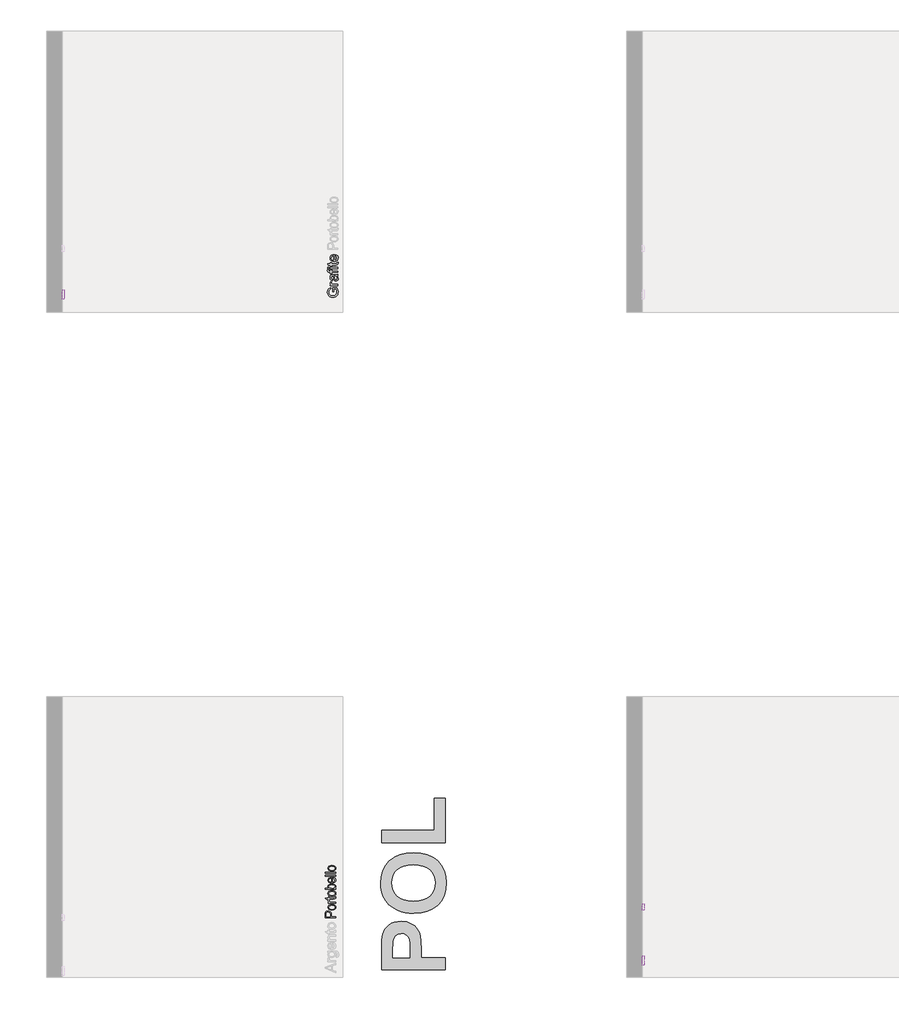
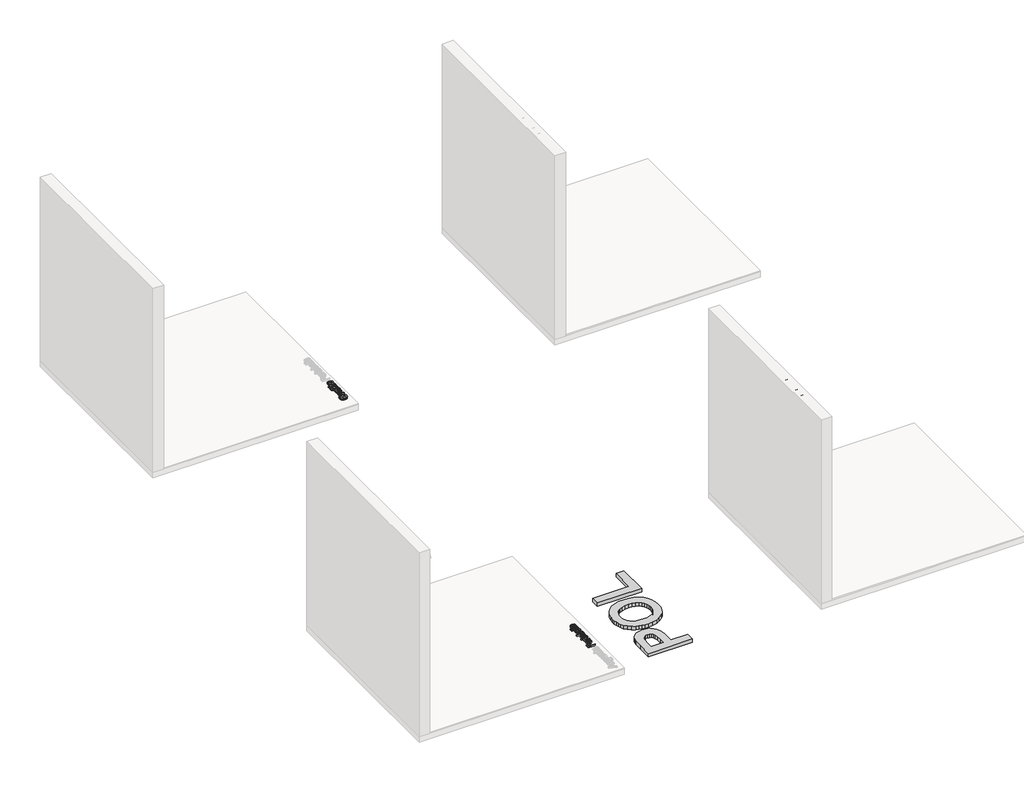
# One storey, part 2 of 14: 6 proxies.
"""IFC4 building model written with IfcOpenShell, lengths in millimetres."""

import ifcopenshell
import ifcopenshell.guid

model = None  # the IFC model being written
_history = None  # IfcOwnerHistory: only IFC2X3 demands one
_inside = {}  # id of a spatial element -> (the spatial element, [elements in it])
_under = {}  # id of a project, library or spatial element -> (it, [spatial elements below it])
_declared = {}  # id of a project -> (the project, [libraries it declares])
_typed = {}  # id of a type object -> (the type object, [elements of that type])
_made_of = {}  # id of a material, layer set ... -> (it, [elements and type objects made of it])


def new_model(schema):
    """Start an empty IFC model of exactly this schema.

    Asked for "IFC4X3", IfcOpenShell would pick the latest addendum, in which some entities
    have other attributes; the version numbers below select the first issue.
    IFC2X3 requires an IfcOwnerHistory on every rooted entity: one is made here for all.
    """
    global model, _history
    if schema == "IFC4X3":
        model = ifcopenshell.file(schema_version=(4, 3, 0, 0))
    else:
        model = ifcopenshell.file(schema=schema)
    _inside.clear()
    _under.clear()
    _declared.clear()
    _typed.clear()
    _made_of.clear()
    _history = None
    if model.schema == "IFC2X3":
        org = make("IfcOrganization", Name="unknown")
        user = make(
            "IfcPersonAndOrganization",
            ThePerson=make("IfcPerson", FamilyName="unknown"),
            TheOrganization=org,
        )
        app = make(
            "IfcApplication",
            ApplicationDeveloper=org,
            Version="unknown",
            ApplicationFullName="unknown",
            ApplicationIdentifier="unknown",
        )
        _history = make(
            "IfcOwnerHistory",
            OwningUser=user,
            OwningApplication=app,
            ChangeAction="ADDED",
            CreationDate=0,
        )
    return model


def make(cls, **values):
    """One entity of the class cls with the attributes given. An attribute that is None is left unset."""
    return model.create_entity(
        cls, **{name: value for name, value in values.items() if value is not None}
    )


def rooted(cls, **values):
    """An entity with a GlobalId (a new one), such as an element, a storey or a relation."""
    return make(cls, GlobalId=ifcopenshell.guid.new(), OwnerHistory=_history, **values)


def si_unit(unit_type, name, prefix=None):
    """IfcSIUnit, for example si_unit("LENGTHUNIT", "METRE", prefix="MILLI")."""
    return make("IfcSIUnit", UnitType=unit_type, Prefix=prefix, Name=name)


def assignment(units):
    """IfcUnitAssignment: the units of a project."""
    return None if units is None else make("IfcUnitAssignment", Units=units)


def point(xyz):
    """IfcCartesianPoint."""
    return None if xyz is None else make("IfcCartesianPoint", Coordinates=xyz)


def direction(xyz):
    """IfcDirection."""
    return None if xyz is None else make("IfcDirection", DirectionRatios=xyz)


def frame(location, z_axis=None, x_axis=None):
    """IfcAxis2Placement3D, a coordinate frame: its origin and axes. An axis left out is left unset."""
    return make(
        "IfcAxis2Placement3D",
        Location=point(location),
        Axis=direction(z_axis),
        RefDirection=direction(x_axis),
    )


def origin():
    """The frame at (0, 0, 0) with its axes left unset."""
    return frame((0.0, 0.0, 0.0))


def origin_with_axes():
    """The frame at (0, 0, 0) with the z axis (0, 0, 1) and the x axis (1, 0, 0) written out."""
    return frame((0.0, 0.0, 0.0), z_axis=(0.0, 0.0, 1.0), x_axis=(1.0, 0.0, 0.0))


def place(relative_to, where):
    """IfcLocalPlacement: puts the frame where relative to a parent placement (None: the world)."""
    return make(
        "IfcLocalPlacement", PlacementRelTo=relative_to, RelativePlacement=where
    )


def context(
    kind, dimensions, precision=None, world=None, true_north=None, identifier=None
):
    """IfcGeometricRepresentationContext, for example the 3D "Model" context."""
    return make(
        "IfcGeometricRepresentationContext",
        ContextIdentifier=identifier,
        ContextType=kind,
        CoordinateSpaceDimension=dimensions,
        Precision=precision,
        WorldCoordinateSystem=world,
        TrueNorth=true_north,
    )


def project(units=None, contexts=None):
    """IfcProject with its units and contexts."""
    return rooted(
        "IfcProject",
        Name="project",
        RepresentationContexts=contexts,
        UnitsInContext=assignment(units),
    )


def spatial(cls, under=None, at=None, **own):
    """A site, building, storey or space (cls), placed at a placement, below another one or the project."""
    s = rooted(cls, ObjectPlacement=at, **own)
    if under is not None:
        _under.setdefault(under.id(), (under, []))[1].append(s)
    return s


def polyline(points):
    """IfcPolyline through the points."""
    return make("IfcPolyline", Points=[point(p) for p in points])


def outline(outer, holes=None, kind="AREA"):
    """IfcArbitraryClosedProfileDef: a profile drawn as a closed curve; with holes, ...WithVoids."""
    if holes is None:
        return make("IfcArbitraryClosedProfileDef", ProfileType=kind, OuterCurve=outer)
    return make(
        "IfcArbitraryProfileDefWithVoids",
        ProfileType=kind,
        OuterCurve=outer,
        InnerCurves=holes,
    )


def extrude(swept, where, along, depth):
    """IfcExtrudedAreaSolid: the profile swept, set in the frame where, extruded along a direction by depth."""
    return make(
        "IfcExtrudedAreaSolid",
        SweptArea=swept,
        Position=where,
        ExtrudedDirection=direction(along),
        Depth=depth,
    )


def shape(context_of_items, identifier, shape_type, items):
    """IfcShapeRepresentation: the items that make up one representation, for example the "Body"."""
    return make(
        "IfcShapeRepresentation",
        ContextOfItems=context_of_items,
        RepresentationIdentifier=identifier,
        RepresentationType=shape_type,
        Items=items,
    )


def made_of(thing, what):
    """Note that an element or type object is made of a material, layer set ...; save() writes the relation."""
    if what is not None:
        _made_of.setdefault(what.id(), (what, []))[1].append(thing)
    return thing


def element(
    cls,
    number,
    at=None,
    inside=None,
    cuts=None,
    type_object=None,
    material=None,
    context=None,
    identifier="Body",
    shape_type=None,
    held_by="IfcProductDefinitionShape",
    body=None,
    shapes=None,
    **own,
):
    """One element of the class cls, such as IfcWall. Its Tag is "e" and its number.

    at: its placement. inside: the storey or other place that contains it. cuts: it is an
    opening in that element (IfcRelVoidsElement). A single representation is given by context,
    identifier, shape_type and body (its items); several are given by shapes. held_by: the class
    of the entity that holds the representations. save() writes the other relations.
    """
    e = rooted(cls, Tag="e%d" % number, ObjectPlacement=at, **own)
    if body is not None:
        shapes = [shape(context, identifier, shape_type, body)]
    if shapes is not None:
        e.Representation = make(held_by, Representations=shapes)
    if inside is not None:
        _inside.setdefault(inside.id(), (inside, []))[1].append(e)
    if cuts is not None:
        rooted(
            "IfcRelVoidsElement", RelatingBuildingElement=cuts, RelatedOpeningElement=e
        )
    if type_object is not None:
        _typed.setdefault(type_object.id(), (type_object, []))[1].append(e)
    return made_of(e, material)


def aggregate(whole, parts):
    """IfcRelAggregates: a whole, such as a stair, and the parts it consists of."""
    return rooted("IfcRelAggregates", RelatingObject=whole, RelatedObjects=parts)


def save(model, path):
    """Write the relations noted so far, then the file.

    IfcRelAggregates (storeys below a building ...), IfcRelContainedInSpatialStructure (elements
    in a storey), IfcRelDefinesByType, IfcRelAssociatesMaterial and IfcRelDeclares: one each for
    every whole, place, type object, material and project.
    """
    for whole, parts in _under.values():
        aggregate(whole, parts)
    for where, things in _inside.values():
        rooted(
            "IfcRelContainedInSpatialStructure",
            RelatedElements=things,
            RelatingStructure=where,
        )
    for kind, things in _typed.values():
        rooted("IfcRelDefinesByType", RelatedObjects=things, RelatingType=kind)
    for what, things in _made_of.values():
        rooted("IfcRelAssociatesMaterial", RelatedObjects=things, RelatingMaterial=what)
    for by, libraries in _declared.values():
        rooted("IfcRelDeclares", RelatingContext=by, RelatedDefinitions=libraries)
    model.write(path)


model = new_model("IFC4")

# Units and contexts
model_context = context("Model", 3, world=origin())
ifc_project = project(units=[si_unit("LENGTHUNIT", "METRE", prefix="MILLI")], contexts=[model_context])

# Site, building, storey
site = spatial("IfcSite", under=ifc_project)
building = spatial("IfcBuilding", under=site)
storey = spatial("IfcBuildingStorey", under=building, Name="PORTOBELLO - SHOWROOM", Elevation=0.0)

# Proxies
placement = place(None, origin())
element("IfcBuildingElementProxy", 1, Name="10mm Arial", ObjectType="10mm Arial", at=placement, inside=storey, context=model_context, shape_type="SweptSolid", body=[
    extrude(outline(polyline([(186727.9738683, -2632.1125093), (186715.4168296, -2632.1125093), (186715.4168296, -2591.3021333), (186752.9653186, -2591.3021333), (186764.8111188, -2611.449804), (186768.7842443, -2632.7501715), (186767.2054175, -2646.8369862), (186762.4689368, -2659.5687689), (186754.7403492, -2670.1453763), (186744.1852016, -2677.7666649), (186731.5239296, -2682.3743869), (186717.4769688, -2683.9102943), (186703.3288404, -2682.3805183), (186690.167862, -2677.7911904), (186679.1283364, -2670.332383), (186671.3445666, -2660.1941683), (186666.7276475, -2647.845596), (186665.1886745, -2633.7557156), (186668.7571299, -2614.110817), (186678.6899437, -2600.3397677), (186695.3059472, -2592.7491359), (186698.5678342, -2604.325156), (186686.9550259, -2610.0518524), (186680.2595736, -2619.8375134), (186677.7457133, -2633.9519193), (186680.4557773, -2650.0283625), (186687.5681625, -2660.9667205), (186697.243459, -2667.4291809), (186716.961934, -2671.3532555), (186738.8509127, -2666.6321032), (186751.9475117, -2652.8978421), (186756.2272056, -2633.7557156), (186753.0021068, -2616.5756264), (186746.1227134, -2603.8591721), (186727.9738683, -2603.8591721), (186727.9738683, -2632.1125093)])), frame((0.0, 0.0, 17.0), z_axis=(0.0, 0.0, 1.0), x_axis=(1.0, 0.0, 0.0)), (0.0, 0.0, 1.0), 20.0),
    extrude(outline(polyline([(186767.2146145, -2572.4665752), (186693.4420117, -2572.4665752), (186693.4420117, -2561.4791663), (186704.3558443, -2561.4791663), (186694.3004031, -2553.680068), (186691.8723819, -2545.8319187), (186695.7474056, -2533.225829), (186707.0045946, -2537.4196838), (186704.4294207, -2546.2488517), (186706.9064928, -2553.3489742), (186713.7736233, -2557.8739227), (186728.4398522, -2559.9095364), (186767.2146145, -2559.9095364), (186767.2146145, -2572.4665752)])), frame((0.0, 0.0, 17.0), z_axis=(0.0, 0.0, 1.0), x_axis=(1.0, 0.0, 0.0)), (0.0, 0.0, 1.0), 20.0),
    extrude(outline(polyline([(186757.7968354, -2478.2887844), (186766.3071722, -2490.4656785), (186768.7842443, -2503.9178968), (186767.2943223, -2514.4117307), (186762.824556, -2522.152581), (186756.0371332, -2526.9258499), (186747.5942414, -2528.5169395), (186737.6614276, -2526.1134438), (186730.4509404, -2519.7981362), (186726.3306621, -2511.0057565), (186724.4422012, -2500.1409749), (186720.1257191, -2478.3623608), (186717.329816, -2478.2887844), (186708.0591897, -2481.7468752), (186704.4294207, -2495.6282891), (186706.8451791, -2508.3324807), (186715.4168296, -2514.3902709), (186713.8471997, -2526.9473097), (186701.5844666, -2521.5149189), (186694.3985049, -2510.5765609), (186691.8723819, -2494.0096084), (186694.1041993, -2478.7915565), (186699.7082684, -2470.1953805), (186708.2308679, -2466.3448823), (186719.2182769, -2465.7317457), (186734.8409989, -2465.7317457), (186756.6564012, -2465.0940835), (186767.2146145, -2462.592486), (186767.2146145, -2475.1495247), (186757.7968354, -2478.2887844)]), holes=[polyline([(186732.6827579, -2478.2887844), (186736.5332561, -2498.5468196), (186738.5688698, -2509.3502876), (186741.8798078, -2514.2431181), (186746.7113246, -2515.9599007), (186753.5048788, -2512.2197671), (186756.2272056, -2501.2446209), (186753.222836, -2488.5404294), (186745.9510352, -2480.3489236), (186736.2389505, -2478.3623608), (186732.6827579, -2478.2887844)])]), frame((0.0, 0.0, 17.0), z_axis=(0.0, 0.0, 1.0), x_axis=(1.0, 0.0, 0.0)), (0.0, 0.0, 1.0), 20.0),
    extrude(outline(polyline([(186767.2146145, -2445.3265577), (186705.9990505, -2445.3265577), (186705.9990505, -2456.3139666), (186693.4420117, -2456.3139666), (186693.4420117, -2445.3265577), (186686.0107954, -2445.3265577), (186675.5384213, -2444.0021825), (186668.0581541, -2437.5765103), (186665.1886745, -2424.9213697), (186666.5621006, -2413.4679769), (186678.3343245, -2415.3073869), (186677.7457133, -2422.5423994), (186679.8303779, -2430.4518623), (186687.6049507, -2432.7695189), (186693.4420117, -2432.7695189), (186693.4420117, -2418.6428503), (186705.9990505, -2418.6428503), (186705.9990505, -2432.7695189), (186767.2146145, -2432.7695189), (186767.2146145, -2445.3265577)])), frame((0.0, 0.0, 17.0), z_axis=(0.0, 0.0, 1.0), x_axis=(1.0, 0.0, 0.0)), (0.0, 0.0, 1.0), 20.0),
    extrude(outline(polyline([(186679.3153431, -2407.6554414), (186666.7583044, -2407.6554414), (186666.7583044, -2395.0984026), (186679.3153431, -2395.0984026), (186679.3153431, -2407.6554414)])), frame((0.0, 0.0, 17.0), z_axis=(0.0, 0.0, 1.0), x_axis=(1.0, 0.0, 0.0)), (0.0, 0.0, 1.0), 20.0),
    extrude(outline(polyline([(186767.2146145, -2407.6554414), (186693.4420117, -2407.6554414), (186693.4420117, -2395.0984026), (186767.2146145, -2395.0984026), (186767.2146145, -2407.6554414)])), frame((0.0, 0.0, 17.0), z_axis=(0.0, 0.0, 1.0), x_axis=(1.0, 0.0, 0.0)), (0.0, 0.0, 1.0), 20.0),
    extrude(outline(polyline([(186756.7422404, -2349.5791371), (186767.5824965, -2348.0095072), (186768.7842443, -2357.4027608), (186766.6995797, -2367.9241859), (186761.2304007, -2373.1726357), (186746.9811048, -2374.6932146), (186705.9990505, -2374.6932146), (186705.9990505, -2384.1109937), (186693.4420117, -2384.1109937), (186693.4420117, -2374.6932146), (186675.5138958, -2374.6932146), (186668.1317305, -2362.1361758), (186693.4420117, -2362.1361758), (186693.4420117, -2349.5791371), (186705.9990505, -2349.5791371), (186705.9990505, -2362.1361758), (186746.6132228, -2362.1361758), (186753.0879459, -2361.4739882), (186755.381077, -2359.3280099), (186756.2272056, -2355.048316), (186756.7422404, -2349.5791371)])), frame((0.0, 0.0, 17.0), z_axis=(0.0, 0.0, 1.0), x_axis=(1.0, 0.0, 0.0)), (0.0, 0.0, 1.0), 20.0),
    extrude(outline(polyline([(186745.2397967, -2285.3714662), (186746.8094265, -2273.0596821), (186756.0861841, -2277.4957258), (186763.0207598, -2284.5743885), (186767.3433732, -2294.1362547), (186768.7842443, -2306.0219088), (186766.2979752, -2320.7555827), (186758.8391677, -2332.0924795), (186746.8922, -2339.3213608), (186730.9414498, -2341.7309878), (186714.454205, -2339.2968353), (186702.1240268, -2331.9943777), (186694.4352931, -2320.810765), (186691.8723819, -2306.7331473), (186694.4291618, -2293.0939224), (186702.0995014, -2282.1954183), (186714.4051541, -2275.0493105), (186730.8678734, -2272.6672746), (186734.2523877, -2272.740851), (186734.2523877, -2329.1739491), (186743.6517727, -2327.0003796), (186750.5618229, -2321.9511992), (186754.8108599, -2314.66407), (186756.2272056, -2305.7766542), (186753.6029807, -2293.4648701), (186745.2397967, -2285.3714662)]), holes=[polyline([(186721.695349, -2329.1739491), (186721.695349, -2285.2243134), (186710.3155326, -2290.252034), (186705.9009486, -2297.5728857), (186704.4294207, -2306.7821983), (186709.1260475, -2322.2455048), (186714.6166862, -2327.1107442), (186721.695349, -2329.1739491)])]), frame((0.0, 0.0, 17.0), z_axis=(0.0, 0.0, 1.0), x_axis=(1.0, 0.0, 0.0)), (0.0, 0.0, 1.0), 20.0),
])
element("IfcBuildingElementProxy", 2, Name="10mm Arial", ObjectType="10mm Arial", at=placement, inside=storey, context=model_context, shape_type="SweptSolid", body=[
    extrude(outline(polyline([(-9109.6433663, 2558.2261649), (-9069.5442288, 2658.6824751), (-9058.8511255, 2658.6824751), (-9018.751988, 2558.2261649), (-9032.0202653, 2558.2261649), (-9043.522709, 2589.6187619), (-9084.8971708, 2589.6187619), (-9096.375089, 2558.2261649), (-9109.6433663, 2558.2261649)]), holes=[polyline([(-9080.2863831, 2602.1758006), (-9048.1089712, 2602.1758006), (-9057.1588683, 2626.8729452), (-9064.1976772, 2646.1254363), (-9070.4516711, 2629.0311863), (-9080.2863831, 2602.1758006)])]), frame((189692.8293498, 0.0, 0.0), z_axis=(1.0, 0.0, 0.0), x_axis=(0.0, 1.0, 0.0)), (0.0, 0.0, 1.0), 20.0),
    extrude(outline(polyline([(-9006.9061878, 2558.2261649), (-9006.9061878, 2631.9987677), (-8995.9187789, 2631.9987677), (-8995.9187789, 2621.0849352), (-8988.1196806, 2631.1403764), (-8980.2715313, 2633.5683975), (-8967.6654416, 2629.6933739), (-8971.8592964, 2618.4361848), (-8980.6884643, 2621.0113588), (-8987.7885868, 2618.5342867), (-8992.3135353, 2611.6671561), (-8994.349149, 2597.0009272), (-8994.349149, 2558.2261649), (-9006.9061878, 2558.2261649)])), frame((189692.8293498, 0.0, 0.0), z_axis=(1.0, 0.0, 0.0), x_axis=(0.0, 1.0, 0.0)), (0.0, 0.0, 1.0), 20.0),
    extrude(outline(polyline([(-8962.9565521, 2551.9476456), (-8950.3995133, 2550.3780157), (-8946.3282859, 2543.7561398), (-8934.1391291, 2540.9602366), (-8921.2877848, 2544.1240218), (-8915.1564182, 2553.0022406), (-8914.2980269, 2567.643944), (-8923.1394575, 2560.5806097), (-8933.9183999, 2558.2261649), (-8946.8647805, 2560.9668858), (-8956.5186172, 2569.1890484), (-8962.5242908, 2581.2433151), (-8964.5261819, 2595.4803483), (-8960.9332011, 2614.9413059), (-8950.5344034, 2628.7123552), (-8934.5315366, 2633.5683975), (-8923.3295298, 2630.8215453), (-8914.2980269, 2622.5809886), (-8914.2980269, 2631.9987677), (-8901.7409881, 2631.9987677), (-8901.7409881, 2568.3061316), (-8905.1745534, 2543.9155553), (-8916.0515977, 2532.5725271), (-8934.3843838, 2528.4031979), (-8946.0677028, 2529.8716602), (-8955.2678184, 2534.277047), (-8961.1692587, 2541.6316213), (-8962.9565521, 2551.9476456)]), holes=[polyline([(-8951.9691432, 2596.3387396), (-8950.6294396, 2584.8209675), (-8946.6103288, 2576.9023076), (-8940.567867, 2572.3129797), (-8933.1581105, 2570.7832037), (-8925.8035363, 2572.3037826), (-8919.7304177, 2576.8655194), (-8915.6561246, 2584.6830118), (-8914.2980269, 2595.9708576), (-8915.6959784, 2606.857099), (-8919.8898332, 2614.6960512), (-8926.0518566, 2619.4325319), (-8933.3543142, 2621.0113588), (-8940.5249474, 2619.4570573), (-8946.5367524, 2614.7941531), (-8950.6110455, 2607.0716968), (-8951.9691432, 2596.3387396)])]), frame((189692.8293498, 0.0, 0.0), z_axis=(1.0, 0.0, 0.0), x_axis=(0.0, 1.0, 0.0)), (0.0, 0.0, 1.0), 20.0),
    extrude(outline(polyline([(-8831.2547978, 2580.2009828), (-8818.9430137, 2578.6313529), (-8823.3790574, 2569.3545953), (-8830.4577202, 2562.4200197), (-8840.0195864, 2558.0974062), (-8851.9052405, 2556.6565351), (-8866.6389144, 2559.1428042), (-8877.9758112, 2566.6016117), (-8885.2046924, 2578.5485795), (-8887.6143195, 2594.4993297), (-8885.1801669, 2610.9865744), (-8877.8777093, 2623.3167526), (-8866.6940967, 2631.0054863), (-8852.616479, 2633.5683975), (-8838.977254, 2631.0116177), (-8828.0787499, 2623.3412781), (-8820.9326422, 2611.0356253), (-8818.5506063, 2594.5729061), (-8818.6241827, 2591.1883917), (-8875.0572807, 2591.1883917), (-8872.8837113, 2581.7890067), (-8867.8345309, 2574.8789566), (-8860.5474017, 2570.6299195), (-8851.6599858, 2569.2135739), (-8839.3482017, 2571.8377988), (-8831.2547978, 2580.2009828)]), holes=[polyline([(-8875.0572807, 2603.7454305), (-8831.107645, 2603.7454305), (-8836.1353656, 2615.1252469), (-8843.4562173, 2619.5398308), (-8852.6655299, 2621.0113588), (-8868.1288365, 2616.314732), (-8872.9940759, 2610.8240932), (-8875.0572807, 2603.7454305)])]), frame((189692.8293498, 0.0, 0.0), z_axis=(1.0, 0.0, 0.0), x_axis=(0.0, 1.0, 0.0)), (0.0, 0.0, 1.0), 20.0),
    extrude(outline(polyline([(-8805.9935675, 2558.2261649), (-8805.9935675, 2631.9987677), (-8793.4365287, 2631.9987677), (-8793.4365287, 2621.6980718), (-8783.8348086, 2630.6008161), (-8770.7259469, 2633.5683975), (-8758.8678839, 2631.1771646), (-8750.77448, 2624.8986452), (-8747.0098209, 2615.6648071), (-8746.3476333, 2603.5247013), (-8746.3476333, 2558.2261649), (-8758.9046721, 2558.2261649), (-8758.9046721, 2601.8324441), (-8760.3516746, 2612.9424804), (-8765.4652344, 2618.8163295), (-8774.0859358, 2621.0113588), (-8787.7098323, 2616.08174), (-8792.0048546, 2608.938698), (-8793.4365287, 2597.3688092), (-8793.4365287, 2558.2261649), (-8805.9935675, 2558.2261649)])), frame((189692.8293498, 0.0, 0.0), z_axis=(1.0, 0.0, 0.0), x_axis=(0.0, 1.0, 0.0)), (0.0, 0.0, 1.0), 20.0),
    extrude(outline(polyline([(-8702.3979976, 2568.6985391), (-8700.8283678, 2557.8582829), (-8710.2216214, 2556.6565351), (-8720.7430465, 2558.7411997), (-8725.9914963, 2564.2103787), (-8727.5120752, 2578.4596747), (-8727.5120752, 2619.4417289), (-8736.9298543, 2619.4417289), (-8736.9298543, 2631.9987677), (-8727.5120752, 2631.9987677), (-8727.5120752, 2649.9268836), (-8714.9550364, 2657.309049), (-8714.9550364, 2631.9987677), (-8702.3979976, 2631.9987677), (-8702.3979976, 2619.4417289), (-8714.9550364, 2619.4417289), (-8714.9550364, 2578.8275567), (-8714.2928488, 2572.3528336), (-8712.1468705, 2570.0597024), (-8707.8671766, 2569.2135739), (-8702.3979976, 2568.6985391)])), frame((189692.8293498, 0.0, 0.0), z_axis=(1.0, 0.0, 0.0), x_axis=(0.0, 1.0, 0.0)), (0.0, 0.0, 1.0), 20.0),
    extrude(outline(polyline([(-8692.9802186, 2595.1124663), (-8690.2640232, 2612.8995608), (-8682.115437, 2625.4014173), (-8672.047733, 2631.5266525), (-8659.9934663, 2633.5683975), (-8646.8018311, 2631.0821284), (-8636.2650776, 2623.6233209), (-8629.3580932, 2611.7805864), (-8627.055765, 2596.1425359), (-8631.1269924, 2573.7998361), (-8642.9850554, 2561.1569582), (-8659.9934663, 2556.6565351), (-8673.3445171, 2559.1336072), (-8683.8690078, 2566.5648235), (-8690.7024159, 2578.6558784), (-8692.9802186, 2595.1124663)]), holes=[polyline([(-8680.4231798, 2595.1369918), (-8678.9700459, 2583.7725038), (-8674.6106443, 2575.6760342), (-8668.050082, 2570.829189), (-8659.9934663, 2569.2135739), (-8651.9736388, 2570.838386), (-8645.4253393, 2575.7128224), (-8641.0659377, 2583.9165909), (-8639.6128038, 2595.5293992), (-8641.0751347, 2606.5627934), (-8645.4621275, 2614.5488984), (-8652.0196241, 2619.3957437), (-8659.9934663, 2621.0113588), (-8668.050082, 2619.4018751), (-8674.6106443, 2614.5734239), (-8678.9700459, 2606.4953484), (-8680.4231798, 2595.1369918)])]), frame((189692.8293498, 0.0, 0.0), z_axis=(1.0, 0.0, 0.0), x_axis=(0.0, 1.0, 0.0)), (0.0, 0.0, 1.0), 20.0),
])
element("IfcBuildingElementProxy", 3, Name="10mm Arial", ObjectType="10mm Arial", at=placement, inside=storey, context=model_context, shape_type="SweptSolid", body=[
    extrude(outline(polyline([(-2650.8558235, 2597.4669111), (-2650.8558235, 2610.0239499), (-2610.0454475, 2610.0239499), (-2610.0454475, 2572.4754609), (-2630.1931181, 2560.6296606), (-2651.4934856, 2556.6565351), (-2665.5803003, 2558.235362), (-2678.312083, 2562.9718427), (-2688.8886904, 2570.7004303), (-2696.5099791, 2581.2555778), (-2701.1177011, 2593.9168498), (-2702.6536084, 2607.9638107), (-2701.1238324, 2622.1119391), (-2696.5345045, 2635.2729175), (-2689.0756971, 2646.312443), (-2678.9374824, 2654.0962129), (-2666.5889101, 2658.7131319), (-2652.4990297, 2660.2521049), (-2632.8541312, 2656.6836496), (-2619.0830818, 2646.7508357), (-2611.49245, 2630.1348323), (-2623.0684701, 2626.8729452), (-2628.7951665, 2638.4857536), (-2638.5808276, 2645.1812059), (-2652.6952335, 2647.6950662), (-2668.7716766, 2644.9850021), (-2679.7100346, 2637.8726169), (-2686.172495, 2628.1973204), (-2690.0965696, 2608.4788455), (-2685.3754174, 2586.5898668), (-2671.6411562, 2573.4932677), (-2652.4990297, 2569.2135739), (-2635.3189405, 2572.4386727), (-2622.6024862, 2579.318066), (-2622.6024862, 2597.4669111), (-2650.8558235, 2597.4669111)])), frame((184113.9473279, 0.0, 0.0), z_axis=(1.0, 0.0, 0.0), x_axis=(0.0, 1.0, 0.0)), (0.0, 0.0, 1.0), 20.0),
    extrude(outline(polyline([(-2591.2098893, 2558.2261649), (-2591.2098893, 2631.9987677), (-2580.2224804, 2631.9987677), (-2580.2224804, 2621.0849352), (-2572.4233821, 2631.1403764), (-2564.5752329, 2633.5683975), (-2551.9691432, 2629.6933739), (-2556.1629979, 2618.4361848), (-2564.9921658, 2621.0113588), (-2572.0922883, 2618.5342867), (-2576.6172368, 2611.6671561), (-2578.6528506, 2597.0009272), (-2578.6528506, 2558.2261649), (-2591.2098893, 2558.2261649)])), frame((184113.9473279, 0.0, 0.0), z_axis=(1.0, 0.0, 0.0), x_axis=(0.0, 1.0, 0.0)), (0.0, 0.0, 1.0), 20.0),
    extrude(outline(polyline([(-2497.0320986, 2567.643944), (-2509.2089926, 2559.1336072), (-2522.6612109, 2556.6565351), (-2533.1550448, 2558.1464572), (-2540.8958951, 2562.6162234), (-2545.669164, 2569.4036462), (-2547.2602536, 2577.846538), (-2544.8567579, 2587.7793519), (-2538.5414503, 2594.989839), (-2529.7490707, 2599.1101173), (-2518.8842891, 2600.9985782), (-2497.105675, 2605.3150603), (-2497.0320986, 2608.1109635), (-2500.4901893, 2617.3815898), (-2514.3716033, 2621.0113588), (-2527.0757948, 2618.5956003), (-2533.133585, 2610.0239499), (-2545.6906238, 2611.5935797), (-2540.258233, 2623.8563129), (-2529.319875, 2631.0422745), (-2512.7529225, 2633.5683975), (-2497.5348706, 2631.3365801), (-2488.9386947, 2625.7325111), (-2485.0881964, 2617.2099115), (-2484.4750598, 2606.2225026), (-2484.4750598, 2590.5997805), (-2483.8373977, 2568.7843782), (-2481.3358001, 2558.2261649), (-2493.8928389, 2558.2261649), (-2497.0320986, 2567.643944)]), holes=[polyline([(-2497.0320986, 2592.7580215), (-2517.2901338, 2588.9075233), (-2528.0936017, 2586.8719096), (-2532.9864322, 2583.5609717), (-2534.7032149, 2578.7294548), (-2530.9630812, 2571.9359006), (-2519.9879351, 2569.2135739), (-2507.2837435, 2572.2179435), (-2499.0922377, 2579.4897443), (-2497.105675, 2589.2018289), (-2497.0320986, 2592.7580215)])]), frame((184113.9473279, 0.0, 0.0), z_axis=(1.0, 0.0, 0.0), x_axis=(0.0, 1.0, 0.0)), (0.0, 0.0, 1.0), 20.0),
    extrude(outline(polyline([(-2464.0698718, 2558.2261649), (-2464.0698718, 2619.4417289), (-2475.0572807, 2619.4417289), (-2475.0572807, 2631.9987677), (-2464.0698718, 2631.9987677), (-2464.0698718, 2639.429984), (-2462.7454966, 2649.9023581), (-2456.3198244, 2657.3826254), (-2443.6646838, 2660.2521049), (-2432.211291, 2658.8786788), (-2434.050701, 2647.106455), (-2441.2857136, 2647.6950662), (-2449.1951765, 2645.6104015), (-2451.512833, 2637.8358287), (-2451.512833, 2631.9987677), (-2437.3861644, 2631.9987677), (-2437.3861644, 2619.4417289), (-2451.512833, 2619.4417289), (-2451.512833, 2558.2261649), (-2464.0698718, 2558.2261649)])), frame((184113.9473279, 0.0, 0.0), z_axis=(1.0, 0.0, 0.0), x_axis=(0.0, 1.0, 0.0)), (0.0, 0.0, 1.0), 20.0),
    extrude(outline(polyline([(184133.9473279, -2413.8417167), (184133.9473279, -2426.3987555), (184113.9473279, -2426.3987555), (184113.9473279, -2413.8417167), (184133.9473279, -2413.8417167)])), frame((0.0, 0.0, 2646.1254363), z_axis=(0.0, 0.0, 1.0), x_axis=(1.0, 0.0, 0.0)), (0.0, 0.0, 1.0), 12.5570388),
    extrude(outline(polyline([(184133.9473279, -2413.8417167), (184133.9473279, -2426.3987555), (184113.9473279, -2426.3987555), (184113.9473279, -2413.8417167), (184133.9473279, -2413.8417167)])), frame((0.0, 0.0, 2558.2261649), z_axis=(0.0, 0.0, 1.0), x_axis=(1.0, 0.0, 0.0)), (0.0, 0.0, 1.0), 73.7726028),
    extrude(outline(polyline([(-2368.3224512, 2568.6985391), (-2366.7528213, 2557.8582829), (-2376.1460749, 2556.6565351), (-2386.6675, 2558.7411997), (-2391.9159498, 2564.2103787), (-2393.4365287, 2578.4596747), (-2393.4365287, 2619.4417289), (-2402.8543078, 2619.4417289), (-2402.8543078, 2631.9987677), (-2393.4365287, 2631.9987677), (-2393.4365287, 2649.9268836), (-2380.8794899, 2657.309049), (-2380.8794899, 2631.9987677), (-2368.3224512, 2631.9987677), (-2368.3224512, 2619.4417289), (-2380.8794899, 2619.4417289), (-2380.8794899, 2578.8275567), (-2380.2173024, 2572.3528336), (-2378.0713241, 2570.0597024), (-2373.7916302, 2569.2135739), (-2368.3224512, 2568.6985391)])), frame((184113.9473279, 0.0, 0.0), z_axis=(1.0, 0.0, 0.0), x_axis=(0.0, 1.0, 0.0)), (0.0, 0.0, 1.0), 20.0),
    extrude(outline(polyline([(-2304.1147803, 2580.2009828), (-2291.8029962, 2578.6313529), (-2296.2390399, 2569.3545953), (-2303.3177026, 2562.4200197), (-2312.8795688, 2558.0974062), (-2324.765223, 2556.6565351), (-2339.4988969, 2559.1428042), (-2350.8357937, 2566.6016117), (-2358.0646749, 2578.5485795), (-2360.4743019, 2594.4993297), (-2358.0401494, 2610.9865744), (-2350.7376918, 2623.3167526), (-2339.5540792, 2631.0054863), (-2325.4764615, 2633.5683975), (-2311.8372365, 2631.0116177), (-2300.9387324, 2623.3412781), (-2293.7926246, 2611.0356253), (-2291.4105887, 2594.5729061), (-2291.4841651, 2591.1883917), (-2347.9172632, 2591.1883917), (-2345.7436937, 2581.7890067), (-2340.6945133, 2574.8789566), (-2333.4073842, 2570.6299195), (-2324.5199683, 2569.2135739), (-2312.2081842, 2571.8377988), (-2304.1147803, 2580.2009828)]), holes=[polyline([(-2347.9172632, 2603.7454305), (-2303.9676275, 2603.7454305), (-2308.9953481, 2615.1252469), (-2316.3161998, 2619.5398308), (-2325.5255124, 2621.0113588), (-2340.9888189, 2616.314732), (-2345.8540583, 2610.8240932), (-2347.9172632, 2603.7454305)])]), frame((184113.9473279, 0.0, 0.0), z_axis=(1.0, 0.0, 0.0), x_axis=(0.0, 1.0, 0.0)), (0.0, 0.0, 1.0), 20.0),
])
element("IfcBuildingElementProxy", 4, Name="10mm Arial Narrow", ObjectType="10mm Arial Narrow", at=placement, inside=storey, context=model_context, shape_type="SweptSolid", body=[
    extrude(outline(polyline([(186744.2516342, -8650.6839626), (186643.5330304, -8650.6839626), (186643.5330304, -8619.3870779), (186645.4113512, -8603.0913764), (186654.8917944, -8591.6183902), (186671.9109032, -8587.3287118), (186683.9867287, -8589.1150202), (186693.6131225, -8594.4739454), (186699.9143809, -8604.2177342), (186702.0148004, -8619.1586335), (186702.0148004, -8640.9370009), (186744.2516342, -8640.9370009), (186744.2516342, -8650.6839626)]), holes=[polyline([(186690.6433451, -8640.9370009), (186690.6433451, -8617.965646), (186686.1125309, -8602.1014506), (186672.4439401, -8597.0756735), (186662.2781637, -8599.5504879), (186656.4782139, -8605.5281168), (186654.9044857, -8618.1940904), (186654.9044857, -8640.9370009), (186690.6433451, -8640.9370009)])]), frame((0.0, 0.0, 17.0), z_axis=(0.0, 0.0, 1.0), x_axis=(1.0, 0.0, 0.0)), (0.0, 0.0, 1.0), 20.0),
    extrude(outline(polyline([(186707.700528, -8579.2062438), (186691.1097524, -8577.2517749), (186679.1576676, -8571.3883683), (186671.9331131, -8562.5298016), (186669.5249282, -8551.5898524), (186671.9331131, -8540.7768168), (186679.1576676, -8531.8928674), (186690.9193821, -8525.9533126), (186706.9390466, -8523.9734611), (186724.1009332, -8525.9184114), (186736.2433884, -8531.7532625), (186743.4679429, -8540.6023107), (186745.8761278, -8551.5898524), (186743.4615973, -8562.4504806), (186736.2180056, -8571.3249115), (186724.2595752, -8577.2359107), (186707.700528, -8579.2062438)]), holes=[polyline([(186707.6751453, -8569.4592821), (186720.2268967, -8568.1552452), (186729.0981548, -8564.2431347), (186734.3714133, -8558.4019379), (186736.1291662, -8551.3106426), (186734.3555491, -8544.5905694), (186729.034698, -8538.8984961), (186720.1475757, -8535.0149411), (186707.6751453, -8533.7204227), (186695.161468, -8535.0244596), (186686.3029012, -8538.9365702), (186681.0296427, -8544.7777669), (186679.2718898, -8551.8690622), (186681.0391612, -8558.636728), (186686.3409753, -8564.3192828), (186695.2090605, -8568.1742823), (186707.6751453, -8569.4592821)])]), frame((0.0, 0.0, 17.0), z_axis=(0.0, 0.0, 1.0), x_axis=(1.0, 0.0, 0.0)), (0.0, 0.0, 1.0), 20.0),
    extrude(outline(polyline([(186736.1291662, -8452.4957423), (186745.8761278, -8450.8712487), (186745.8761278, -8458.2322353), (186743.7566713, -8466.5069996), (186737.9567215, -8470.8220608), (186723.3108963, -8471.9896656), (186680.8963835, -8471.9896656), (186680.8963835, -8480.1121336), (186677.6473962, -8480.1121336), (186682.5208771, -8481.7366272), (186680.8963835, -8489.3006756), (186683.2189017, -8495.3798353), (186689.7041847, -8499.2506989), (186705.1114913, -8501.2305505), (186744.2516342, -8501.2305505), (186744.2516342, -8510.9775122), (186671.1494218, -8510.9775122), (186671.1494218, -8501.2305505), (186680.845618, -8501.2305505), (186671.7586069, -8494.9864032), (186669.5249282, -8488.5899596), (186671.1494218, -8480.1121336), (186671.1494218, -8471.9896656), (186654.9044857, -8471.9896656), (186646.7820177, -8462.2427039), (186671.1494218, -8462.2427039), (186671.1494218, -8452.4957423), (186680.8963835, -8452.4957423), (186680.8963835, -8462.2427039), (186725.544575, -8462.2427039), (186733.5401295, -8461.3796917), (186736.1291662, -8456.760038), (186736.1291662, -8452.4957423)])), frame((0.0, 0.0, 17.0), z_axis=(0.0, 0.0, 1.0), x_axis=(1.0, 0.0, 0.0)), (0.0, 0.0, 1.0), 20.0),
    extrude(outline(polyline([(186707.700528, -8445.9977678), (186691.1097524, -8444.043299), (186679.1576676, -8438.1798923), (186671.9331131, -8429.3213256), (186669.5249282, -8418.3813765), (186671.9331131, -8407.5683409), (186679.1576676, -8398.6843915), (186690.9193821, -8392.7448367), (186706.9390466, -8390.7649851), (186724.1009332, -8392.7099355), (186736.2433884, -8398.5447865), (186743.4679429, -8407.3938347), (186745.8761278, -8418.3813765), (186743.4615973, -8429.2420046), (186736.2180056, -8438.1164356), (186724.2595752, -8444.0274348), (186707.700528, -8445.9977678)]), holes=[polyline([(186707.6751453, -8436.2508062), (186720.2268967, -8434.9467693), (186729.0981548, -8431.0346587), (186734.3714133, -8425.193462), (186736.1291662, -8418.1021666), (186734.3555491, -8411.3820935), (186729.034698, -8405.6900202), (186720.1475757, -8401.8064651), (186707.6751453, -8400.5119468), (186695.161468, -8401.8159836), (186686.3029012, -8405.7280942), (186681.0296427, -8411.569291), (186679.2718898, -8418.6605863), (186681.0391612, -8425.4282521), (186686.3409753, -8431.1108069), (186695.2090605, -8434.9658063), (186707.6751453, -8436.2508062)])]), frame((0.0, 0.0, 17.0), z_axis=(0.0, 0.0, 1.0), x_axis=(1.0, 0.0, 0.0)), (0.0, 0.0, 1.0), 20.0),
    extrude(outline(polyline([(186744.2516342, -8368.0220746), (186744.2516342, -8377.7690363), (186643.5330304, -8377.7690363), (186643.5330304, -8368.0220746), (186678.9419146, -8368.0220746), (186671.8601378, -8360.6230139), (186669.5249282, -8351.4217805), (186673.7257671, -8338.5400539), (186686.4551975, -8329.2626724), (186707.1421083, -8325.7852408), (186723.5964518, -8327.7174998), (186735.7991909, -8333.5142768), (186743.3568936, -8341.8873991), (186745.8761278, -8351.5486941), (186743.2617084, -8360.8895323), (186735.4945983, -8368.0220746), (186744.2516342, -8368.0220746)]), holes=[polyline([(186707.1421083, -8368.0220746), (186724.3896616, -8365.9406922), (186733.1213147, -8360.0519028), (186736.1291662, -8351.5994595), (186734.3396849, -8345.6567319), (186728.9712412, -8340.4183746), (186707.5482317, -8335.5322024), (186686.1125309, -8340.2406956), (186680.9820501, -8345.4853986), (186679.2718898, -8351.8025212), (186681.0613711, -8357.7801501), (186686.4298148, -8363.0724456), (186707.1421083, -8368.0220746)])]), frame((0.0, 0.0, 17.0), z_axis=(0.0, 0.0, 1.0), x_axis=(1.0, 0.0, 0.0)), (0.0, 0.0, 1.0), 20.0),
    extrude(outline(polyline([(186721.5087237, -8273.8014453), (186723.1332173, -8264.0544836), (186733.0197839, -8267.754014), (186740.1396348, -8273.5730009), (186744.4420045, -8281.2766542), (186745.8761278, -8290.6301838), (186743.4615973, -8302.2237378), (186736.2180056, -8311.36786), (186724.4118714, -8317.3074147), (186708.3097131, -8319.2872663), (186691.6427894, -8317.2978962), (186679.4622602, -8311.3297859), (186672.0092612, -8302.3157501), (186669.5249282, -8291.1886034), (186671.9235945, -8280.5056543), (186679.1195936, -8271.7581369), (186690.8590982, -8265.9232858), (186706.8882812, -8263.9783355), (186710.1372684, -8264.0544836), (186710.1372684, -8309.5403047), (186729.5804263, -8303.5372931), (186734.4919812, -8297.6072569), (186736.1291662, -8290.5032702), (186732.4740555, -8280.3248024), (186721.5087237, -8273.8014453)]), holes=[polyline([(186700.3903068, -8308.8803542), (186700.3903068, -8273.8014453), (186686.1252223, -8278.065741), (186680.9852229, -8283.8910736), (186679.2718898, -8291.1124553), (186684.9830002, -8303.3215401), (186700.3903068, -8308.8803542)])]), frame((0.0, 0.0, 17.0), z_axis=(0.0, 0.0, 1.0), x_axis=(1.0, 0.0, 0.0)), (0.0, 0.0, 1.0), 20.0),
    extrude(outline(polyline([(186744.2516342, -8251.0585348), (186643.5330304, -8251.0585348), (186643.5330304, -8241.3115731), (186744.2516342, -8241.3115731), (186744.2516342, -8251.0585348)])), frame((0.0, 0.0, 17.0), z_axis=(0.0, 0.0, 1.0), x_axis=(1.0, 0.0, 0.0)), (0.0, 0.0, 1.0), 20.0),
    extrude(outline(polyline([(186744.2516342, -8225.066637), (186643.5330304, -8225.066637), (186643.5330304, -8215.3196754), (186744.2516342, -8215.3196754), (186744.2516342, -8225.066637)])), frame((0.0, 0.0, 17.0), z_axis=(0.0, 0.0, 1.0), x_axis=(1.0, 0.0, 0.0)), (0.0, 0.0, 1.0), 20.0),
    extrude(outline(polyline([(186707.700528, -8203.9482201), (186691.1097524, -8201.9937512), (186679.1576676, -8196.1303446), (186671.9331131, -8187.2717779), (186669.5249282, -8176.3318287), (186671.9331131, -8165.5187932), (186679.1576676, -8156.6348437), (186690.9193821, -8150.695289), (186706.9390466, -8148.7154374), (186724.1009332, -8150.6603878), (186736.2433884, -8156.4952388), (186743.4679429, -8165.344287), (186745.8761278, -8176.3318287), (186743.4615973, -8187.1924569), (186736.2180056, -8196.0668878), (186724.2595752, -8201.977887), (186707.700528, -8203.9482201)]), holes=[polyline([(186707.6751453, -8194.2012584), (186720.2268967, -8192.8972216), (186729.0981548, -8188.985111), (186734.3714133, -8183.1439143), (186736.1291662, -8176.0526189), (186734.3555491, -8169.3325457), (186729.034698, -8163.6404724), (186720.1475757, -8159.7569174), (186707.6751453, -8158.462399), (186695.161468, -8159.7664359), (186686.3029012, -8163.6785465), (186681.0296427, -8169.5197432), (186679.2718898, -8176.6110386), (186681.0391612, -8183.3787043), (186686.3409753, -8189.0612591), (186695.2090605, -8192.9162586), (186707.6751453, -8194.2012584)])]), frame((0.0, 0.0, 17.0), z_axis=(0.0, 0.0, 1.0), x_axis=(1.0, 0.0, 0.0)), (0.0, 0.0, 1.0), 20.0),
])
element("IfcBuildingElementProxy", 5, Name="10mm Arial Narrow", ObjectType="10mm Arial Narrow", at=placement, inside=storey, context=model_context, shape_type="SweptSolid", body=[
    extrude(outline(polyline([(-8580.8096597, 2558.2261649), (-8580.8096597, 2658.9447687), (-8549.5127751, 2658.9447687), (-8533.2170735, 2657.066448), (-8521.7440874, 2647.5860048), (-8517.454409, 2630.566896), (-8519.2407174, 2618.4910704), (-8524.5996426, 2608.8646767), (-8534.3434314, 2602.5634182), (-8549.2843306, 2600.4629988), (-8571.0626981, 2600.4629988), (-8571.0626981, 2558.2261649), (-8580.8096597, 2558.2261649)]), holes=[polyline([(-8571.0626981, 2611.834454), (-8548.0913431, 2611.834454), (-8532.2271477, 2616.3652682), (-8527.2013706, 2630.033859), (-8529.6761851, 2640.1996354), (-8535.653814, 2645.9995852), (-8548.3197876, 2647.5733134), (-8571.0626981, 2647.5733134), (-8571.0626981, 2611.834454)])]), frame((189692.8293498, 0.0, 0.0), z_axis=(1.0, 0.0, 0.0), x_axis=(0.0, 1.0, 0.0)), (0.0, 0.0, 1.0), 20.0),
    extrude(outline(polyline([(-8509.3319409, 2594.7772711), (-8507.3774721, 2611.3680467), (-8501.5140655, 2623.3201315), (-8492.6554987, 2630.5446861), (-8481.7155496, 2632.9528709), (-8470.902514, 2630.5446861), (-8462.0185646, 2623.3201315), (-8456.0790098, 2611.558417), (-8454.0991582, 2595.5387525), (-8456.0441086, 2578.3768659), (-8461.8789597, 2566.2344108), (-8470.7280079, 2559.0098562), (-8481.7155496, 2556.6016713), (-8492.5761778, 2559.0162019), (-8501.4506087, 2566.2597935), (-8507.3616079, 2578.218224), (-8509.3319409, 2594.7772711)]), holes=[polyline([(-8499.5849793, 2594.8026538), (-8498.2809424, 2582.2509024), (-8494.3688318, 2573.3796444), (-8488.5276351, 2568.1063858), (-8481.4363398, 2566.348633), (-8474.7162666, 2568.12225), (-8469.0241933, 2573.4431012), (-8465.1406382, 2582.3302234), (-8463.8461199, 2594.8026538), (-8465.1501568, 2607.3163312), (-8469.0622673, 2616.1748979), (-8474.9034641, 2621.4481564), (-8481.9947594, 2623.2059093), (-8488.7624252, 2621.4386379), (-8494.44498, 2616.1368238), (-8498.2999795, 2607.2687386), (-8499.5849793, 2594.8026538)])]), frame((189692.8293498, 0.0, 0.0), z_axis=(1.0, 0.0, 0.0), x_axis=(0.0, 1.0, 0.0)), (0.0, 0.0, 1.0), 20.0),
    extrude(outline(polyline([(-8382.6214394, 2566.348633), (-8380.9969458, 2556.6016713), (-8388.3579325, 2556.6016713), (-8396.6326968, 2558.7211278), (-8400.947758, 2564.5210777), (-8402.1153628, 2579.1669029), (-8402.1153628, 2621.5814157), (-8410.2378308, 2621.5814157), (-8410.2378308, 2624.8304029), (-8411.8623244, 2619.9569221), (-8419.4263728, 2621.5814157), (-8425.5055325, 2619.2588975), (-8429.3763961, 2612.7736144), (-8431.3562477, 2597.3663078), (-8431.3562477, 2558.2261649), (-8441.1032094, 2558.2261649), (-8441.1032094, 2631.3283773), (-8431.3562477, 2631.3283773), (-8431.3562477, 2621.6321811), (-8425.1121004, 2630.7191922), (-8418.7156568, 2632.9528709), (-8410.2378308, 2631.3283773), (-8402.1153628, 2631.3283773), (-8402.1153628, 2647.5733134), (-8392.3684011, 2655.6957815), (-8392.3684011, 2631.3283773), (-8382.6214394, 2631.3283773), (-8382.6214394, 2621.5814157), (-8392.3684011, 2621.5814157), (-8392.3684011, 2576.9332242), (-8391.5053889, 2568.9376697), (-8386.8857352, 2566.348633), (-8382.6214394, 2566.348633)])), frame((189692.8293498, 0.0, 0.0), z_axis=(1.0, 0.0, 0.0), x_axis=(0.0, 1.0, 0.0)), (0.0, 0.0, 1.0), 20.0),
    extrude(outline(polyline([(-8376.123465, 2594.7772711), (-8374.1689961, 2611.3680467), (-8368.3055895, 2623.3201315), (-8359.4470228, 2630.5446861), (-8348.5070737, 2632.9528709), (-8337.6940381, 2630.5446861), (-8328.8100887, 2623.3201315), (-8322.8705339, 2611.558417), (-8320.8906823, 2595.5387525), (-8322.8356327, 2578.3768659), (-8328.6704837, 2566.2344108), (-8337.5195319, 2559.0098562), (-8348.5070737, 2556.6016713), (-8359.3677018, 2559.0162019), (-8368.2421327, 2566.2597935), (-8374.1531319, 2578.218224), (-8376.123465, 2594.7772711)]), holes=[polyline([(-8366.3765034, 2594.8026538), (-8365.0724665, 2582.2509024), (-8361.1603559, 2573.3796444), (-8355.3191592, 2568.1063858), (-8348.2278638, 2566.348633), (-8341.5077907, 2568.12225), (-8335.8157173, 2573.4431012), (-8331.9321623, 2582.3302234), (-8330.637644, 2594.8026538), (-8331.9416808, 2607.3163312), (-8335.8537914, 2616.1748979), (-8341.6949882, 2621.4481564), (-8348.7862835, 2623.2059093), (-8355.5539493, 2621.4386379), (-8361.2365041, 2616.1368238), (-8365.0915035, 2607.2687386), (-8366.3765034, 2594.8026538)])]), frame((189692.8293498, 0.0, 0.0), z_axis=(1.0, 0.0, 0.0), x_axis=(0.0, 1.0, 0.0)), (0.0, 0.0, 1.0), 20.0),
    extrude(outline(polyline([(-8298.1477718, 2558.2261649), (-8307.8947334, 2558.2261649), (-8307.8947334, 2658.9447687), (-8298.1477718, 2658.9447687), (-8298.1477718, 2623.5358846), (-8290.7487111, 2630.6176614), (-8281.5474777, 2632.9528709), (-8268.6657511, 2628.752032), (-8259.3883696, 2616.0226016), (-8255.910938, 2595.3356908), (-8257.843197, 2578.8813473), (-8263.639974, 2566.6786082), (-8272.0130963, 2559.1209056), (-8281.6743913, 2556.6016713), (-8291.0152295, 2559.2160907), (-8298.1477718, 2566.9832008), (-8298.1477718, 2558.2261649)]), holes=[polyline([(-8298.1477718, 2595.3356908), (-8296.0663893, 2578.0881376), (-8290.1776, 2569.3564844), (-8281.7251567, 2566.348633), (-8275.7824291, 2568.1381142), (-8270.5440718, 2573.5065579), (-8265.6578996, 2594.9295674), (-8270.3663928, 2616.3652682), (-8275.6110958, 2621.495749), (-8281.9282184, 2623.2059093), (-8287.9058472, 2621.4164281), (-8293.1981428, 2616.0479843), (-8298.1477718, 2595.3356908)])]), frame((189692.8293498, 0.0, 0.0), z_axis=(1.0, 0.0, 0.0), x_axis=(0.0, 1.0, 0.0)), (0.0, 0.0, 1.0), 20.0),
    extrude(outline(polyline([(-8203.9271425, 2580.9690755), (-8194.1801808, 2579.3445819), (-8197.8797112, 2569.4580153), (-8203.6986981, 2562.3381644), (-8211.4023513, 2558.0357946), (-8220.7558809, 2556.6016713), (-8232.3494349, 2559.0162019), (-8241.4935572, 2566.2597935), (-8247.4331119, 2578.0659277), (-8249.4129635, 2594.168086), (-8247.4235934, 2610.8350097), (-8241.4554831, 2623.0155389), (-8232.4414473, 2630.4685379), (-8221.3143006, 2632.9528709), (-8210.6313514, 2630.5542046), (-8201.8838341, 2623.3582056), (-8196.048983, 2611.618701), (-8194.1040327, 2595.5895179), (-8194.1801808, 2592.3405307), (-8239.6660019, 2592.3405307), (-8233.6629903, 2572.8973728), (-8227.7329541, 2567.9858179), (-8220.6289674, 2566.348633), (-8210.4504996, 2570.0037436), (-8203.9271425, 2580.9690755)]), holes=[polyline([(-8239.0060513, 2602.0874924), (-8203.9271425, 2602.0874924), (-8208.1914382, 2616.3525769), (-8214.0167707, 2621.4925762), (-8221.2381525, 2623.2059093), (-8233.4472373, 2617.4947989), (-8239.0060513, 2602.0874924)])]), frame((189692.8293498, 0.0, 0.0), z_axis=(1.0, 0.0, 0.0), x_axis=(0.0, 1.0, 0.0)), (0.0, 0.0, 1.0), 20.0),
    extrude(outline(polyline([(189712.8293498, -8171.4372703), (189712.8293498, -8181.1842319), (189692.8293498, -8181.1842319), (189692.8293498, -8171.4372703), (189712.8293498, -8171.4372703)])), frame((0.0, 0.0, 2558.2261649), z_axis=(0.0, 0.0, 1.0), x_axis=(1.0, 0.0, 0.0)), (0.0, 0.0, 1.0), 100.7186038),
    extrude(outline(polyline([(189712.8293498, -8145.4453725), (189712.8293498, -8155.1923342), (189692.8293498, -8155.1923342), (189692.8293498, -8145.4453725), (189712.8293498, -8145.4453725)])), frame((0.0, 0.0, 2558.2261649), z_axis=(0.0, 0.0, 1.0), x_axis=(1.0, 0.0, 0.0)), (0.0, 0.0, 1.0), 100.7186038),
    extrude(outline(polyline([(-8134.0739173, 2594.7772711), (-8132.1194484, 2611.3680467), (-8126.2560418, 2623.3201315), (-8117.3974751, 2630.5446861), (-8106.4575259, 2632.9528709), (-8095.6444903, 2630.5446861), (-8086.7605409, 2623.3201315), (-8080.8209862, 2611.558417), (-8078.8411346, 2595.5387525), (-8080.7860849, 2578.3768659), (-8086.620936, 2566.2344108), (-8095.4699842, 2559.0098562), (-8106.4575259, 2556.6016713), (-8117.3181541, 2559.0162019), (-8126.192585, 2566.2597935), (-8132.1035842, 2578.218224), (-8134.0739173, 2594.7772711)]), holes=[polyline([(-8124.3269556, 2594.8026538), (-8123.0229188, 2582.2509024), (-8119.1108082, 2573.3796444), (-8113.2696114, 2568.1063858), (-8106.1783161, 2566.348633), (-8099.4582429, 2568.12225), (-8093.7661696, 2573.4431012), (-8089.8826146, 2582.3302234), (-8088.5880962, 2594.8026538), (-8089.8921331, 2607.3163312), (-8093.8042437, 2616.1748979), (-8099.6454404, 2621.4481564), (-8106.7367358, 2623.2059093), (-8113.5044015, 2621.4386379), (-8119.1869563, 2616.1368238), (-8123.0419558, 2607.2687386), (-8124.3269556, 2594.8026538)])]), frame((189692.8293498, 0.0, 0.0), z_axis=(1.0, 0.0, 0.0), x_axis=(0.0, 1.0, 0.0)), (0.0, 0.0, 1.0), 20.0),
])
element("IfcBuildingElementProxy", 6, Name="600mm Arial", ObjectType="600mm Arial", at=placement, inside=storey, context=model_context, shape_type="SweptSolid", body=[
    extrude(outline(polyline([(187799.8189048, -9153.3523318), (187187.6632648, -9153.3523318), (187187.6632648, -8956.132546), (187189.9406295, -8863.4817575), (187196.7727237, -8809.9257302), (187205.6212346, -8784.8035505), (187218.5025789, -8761.8164003), (187235.4167565, -8740.9642794), (187256.3637675, -8722.247188), (187280.9925182, -8706.8038085), (187308.9519148, -8695.772823), (187340.2419573, -8689.1542318), (187374.8626458, -8686.9480347), (187426.4259789, -8692.1290395), (187448.862766, -8698.6052954), (187469.0696335, -8707.6720538), (187503.1541923, -8731.2048227), (187529.0402381, -8760.3550912), (187547.1642658, -8792.5608241), (187557.9627702, -8825.2599861), (187564.4532597, -8880.10652), (187566.6167562, -8955.0697758), (187566.6167562, -9036.7512575), (187799.8189048, -9036.7512575), (187799.8189048, -9153.3523318)]), holes=[polyline([(187294.5475829, -9036.7512575), (187459.7324381, -9036.7512575), (187459.7324381, -8964.3310591), (187457.4550734, -8899.1035375), (187450.6229792, -8859.8000179), (187438.9135288, -8836.305205), (187422.0040957, -8818.503804), (187400.9194939, -8807.2877827), (187376.6845375, -8803.549109), (187347.7240494, -8808.8060259), (187324.3051487, -8824.5767767), (187307.5285618, -8848.3562601), (187298.4950151, -8877.6393749), (187294.5475829, -8972.8332207), (187294.5475829, -9036.7512575)])]), origin_with_axes(), (0.0, 0.0, 1.0), 50.0),
    extrude(outline(polyline([(187497.5366927, -8609.2139852), (187452.7295416, -8607.4964726), (187411.6800423, -8602.3439349), (187374.3881948, -8593.7563721), (187340.8539991, -8581.7337841), (187296.6161892, -8557.4988277), (187257.1228891, -8525.7865238), (187224.803288, -8488.6465006), (187202.0865748, -8448.1283865), (187191.5252958, -8418.9591398), (187183.9815251, -8387.6263967), (187179.4552627, -8354.1301571), (187177.9465086, -8318.470421), (187183.179703, -8255.3684399), (187198.8792861, -8198.9087726), (187225.045258, -8149.0914191), (187261.6776186, -8105.9163794), (187283.6316518, -8087.2348718), (187307.6281966, -8071.0442319), (187361.7488205, -8046.1355552), (187424.0394904, -8031.1903491), (187494.5002063, -8026.2086138), (187564.4817268, -8031.152393), (187626.3975804, -8045.9837309), (187680.2477673, -8070.7026272), (187704.1482357, -8086.7699099), (187726.0322874, -8105.3090821), (187762.5650134, -8148.1994512), (187788.6598176, -8197.7700902), (187804.3167001, -8254.0209991), (187809.5356609, -8316.9521779), (187804.3404227, -8380.547588), (187788.7547078, -8437.2729479), (187762.7785163, -8487.1282575), (187726.4118482, -8530.1135168), (187680.9357212, -8564.7199717), (187627.631153, -8589.4388681), (187566.4981435, -8604.2702059), (187497.5366927, -8609.2139852)]), holes=[polyline([(187493.2856118, -8492.6129109), (187541.7080794, -8489.514746), (187583.8867721, -8480.2202511), (187619.8216898, -8464.7294265), (187649.5128324, -8443.0422719), (187672.7609308, -8416.5821404), (187689.3667153, -8386.772385), (187699.330186, -8353.6130056), (187702.6513429, -8317.1040022), (187699.3539085, -8280.6329549), (187689.4616055, -8247.5874438), (187672.9744337, -8217.9674687), (187649.8923932, -8191.7730298), (187620.2154841, -8170.3515678), (187583.9437062, -8155.0505235), (187541.0770596, -8145.8698969), (187491.6155444, -8142.809688), (187442.841983, -8145.7892402), (187400.6727794, -8154.7278968), (187365.1079335, -8169.6256578), (187336.1474453, -8190.4825231), (187313.6964247, -8216.2736787), (187297.6599813, -8245.9743104), (187288.0381154, -8279.5844182), (187284.8308267, -8317.1040022), (187288.0760714, -8354.6615422), (187297.8118057, -8388.3855183), (187314.0380294, -8418.2759304), (187336.7547426, -8444.3327786), (187366.0093904, -8465.4553365), (187401.8494178, -8480.5428778), (187444.274825, -8489.5954026), (187493.2856118, -8492.6129109)])]), origin_with_axes(), (0.0, 0.0, 1.0), 50.0),
    extrude(outline(polyline([(187799.8189048, -7929.0410519), (187187.6632648, -7929.0410519), (187187.6632648, -7812.4399776), (187692.9345867, -7812.4399776), (187692.9345867, -7501.5037795), (187799.8189048, -7501.5037795), (187799.8189048, -7929.0410519)])), origin_with_axes(), (0.0, 0.0, 1.0), 50.0),
])

save(model, "model.ifc")
